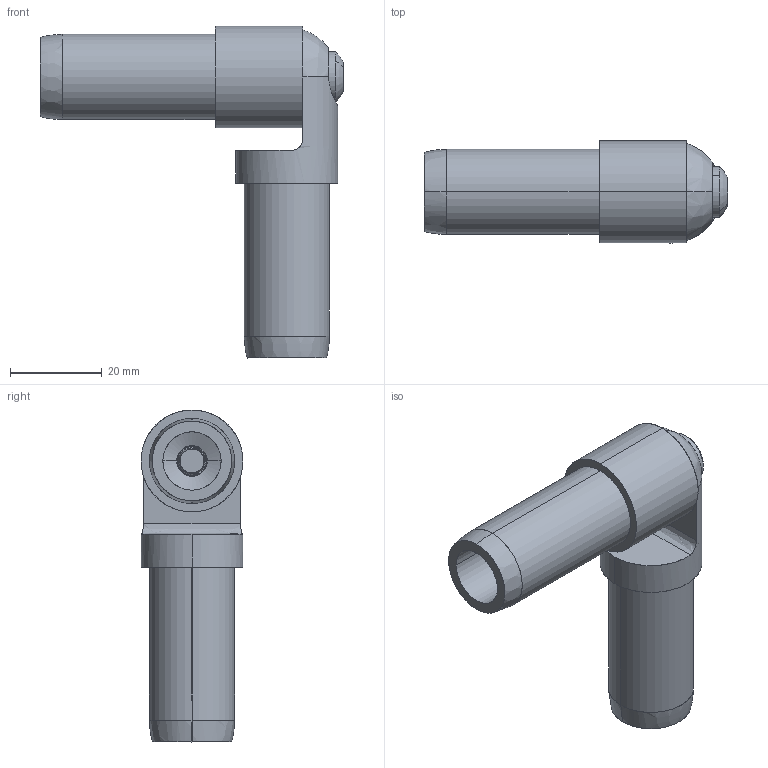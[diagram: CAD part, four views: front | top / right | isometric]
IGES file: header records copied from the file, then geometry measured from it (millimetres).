
Start section: SolidWorks IGES file using analytic representation for surfaces
Global section: file name: \\SERVER3\Design\_New Design Drive Folder List\_Design Vault\AAI\Modular Round Tube Connectors\Solidworks Models\STP Files\12202013\0.750 Inch Modular Connectors\Assemblies\0.75 Inch In-Plane Adjustbale 2-Tube Joint Kit.IGS; native system: SolidWorks 2013; preprocessor: SolidWorks 2013; author: tbraun; date: 140109.103704; units: inch
Bounding box: 66.09 x 22.23 x 72.38 mm (x, y, z)
Surface area: 13950.9 mm2 (no closed solid volume)
Topology: 0 solids, 0 shells, 202 faces, 2675 edges, 2673 vertices
Faces by surface type: revolution 162, bspline 40
